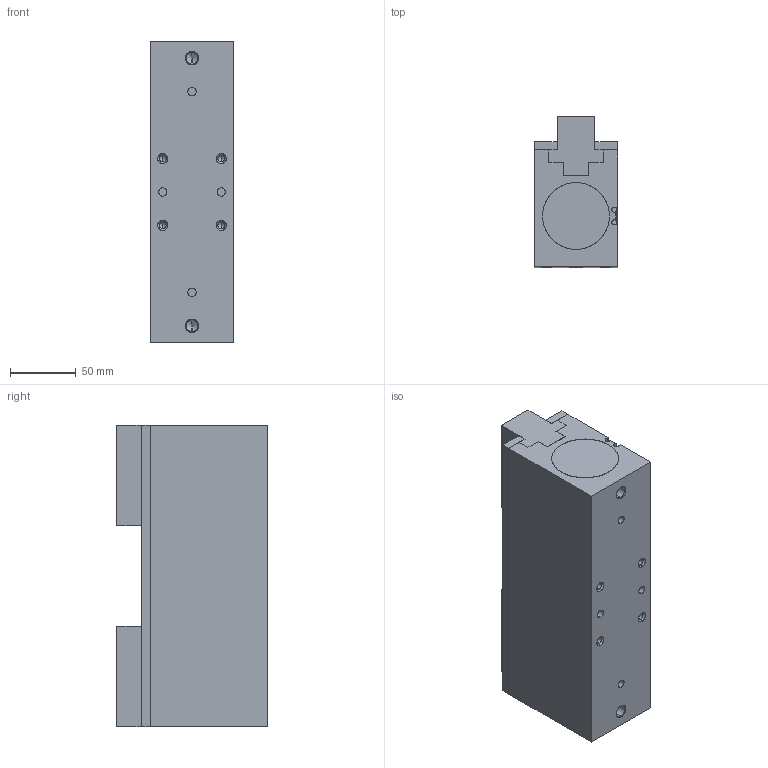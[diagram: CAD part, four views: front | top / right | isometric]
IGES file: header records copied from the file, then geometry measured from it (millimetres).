
Start section: SolidWorks IGES file using analytic representation for surfaces
Global section: file name: C:\Users\User\Downloads\AGLP-16\iges\AGLP-16-3000_open.IGS; native system: SolidWorks 2016; preprocessor: SolidWorks 2016; author: User; date: 200429.163247; units: inch
Bounding box: 63.5 x 114.3 x 228.6 mm (x, y, z)
Surface area: 157389.7 mm2 (no closed solid volume)
Topology: 0 solids, 0 shells, 227 faces, 3402 edges, 3376 vertices
Faces by surface type: revolution 142, bspline 85
